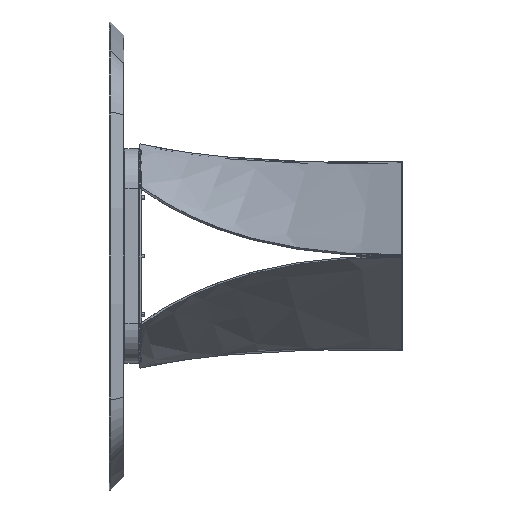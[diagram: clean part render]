
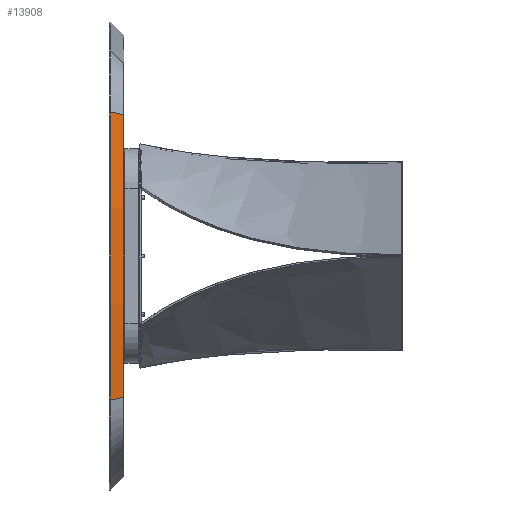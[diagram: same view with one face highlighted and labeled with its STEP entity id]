
A CAD part, left-side view. The second image highlights one B-rep face of the part: STEP entity #13908.
In plain terms, the highlighted conical face has half-angle 45 degrees and reference radius 1895 mm.
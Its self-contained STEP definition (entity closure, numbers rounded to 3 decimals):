
#79 = CARTESIAN_POINT ( 'NONE',  ( -1163.672, 35., 369.275 ) ) ;
#2102 = AXIS2_PLACEMENT_3D ( 'NONE', #20626, #16676, #16799 ) ;
#3010 = DIRECTION ( 'NONE',  ( 0., 1., 0. ) ) ;
#3261 = DIRECTION ( 'NONE',  ( 0., 0., 1. ) ) ;
#3951 = VERTEX_POINT ( 'NONE', #79 ) ;
#4490 = AXIS2_PLACEMENT_3D ( 'NONE', #16801, #3010, #7089 ) ;
#5608 = EDGE_LOOP ( 'NONE', ( #6726, #20021, #16544, #9387 ) ) ;
#6405 = VERTEX_POINT ( 'NONE', #20281 ) ;
#6726 = ORIENTED_EDGE ( 'NONE', *, *, #11914, .F. ) ;
#7089 = DIRECTION ( 'NONE',  ( 0., 0., 1. ) ) ;
#8241 = CARTESIAN_POINT ( 'NONE',  ( -1129.343, 0., 362.455 ) ) ;
#9387 = ORIENTED_EDGE ( 'NONE', *, *, #13855, .F. ) ;
#9803 = CIRCLE ( 'NONE', #4490, 1895. ) ;
#10153 = VECTOR ( 'NONE', #21785, 1000. ) ;
#10803 = DIRECTION ( 'NONE',  ( 0., 1., 0. ) ) ;
#11690 = VERTEX_POINT ( 'NONE', #13367 ) ;
#11914 = EDGE_CURVE ( 'NONE', #6405, #23966, #16155, .T. ) ;
#11942 = EDGE_CURVE ( 'NONE', #11690, #3951, #21910, .T. ) ;
#12454 = CARTESIAN_POINT ( 'NONE',  ( -1129.343, 0., -362.455 ) ) ;
#13077 = AXIS2_PLACEMENT_3D ( 'NONE', #20752, #10803, #3261 ) ;
#13367 = CARTESIAN_POINT ( 'NONE',  ( -1129.63, 0.293, 362.512 ) ) ;
#13855 = EDGE_CURVE ( 'NONE', #23966, #3951, #9803, .T. ) ;
#13908 = ADVANCED_FACE ( 'NONE', ( #20508 ), #21227, .T. ) ;
#14324 = CIRCLE ( 'NONE', #2102, 1860.293 ) ;
#15017 = EDGE_CURVE ( 'NONE', #6405, #11690, #14324, .T. ) ;
#15455 = VECTOR ( 'NONE', #23959, 1000. ) ;
#16155 = LINE ( 'NONE', #12454, #15455 ) ;
#16544 = ORIENTED_EDGE ( 'NONE', *, *, #11942, .T. ) ;
#16676 = DIRECTION ( 'NONE',  ( 0., 1., 0. ) ) ;
#16799 = DIRECTION ( 'NONE',  ( 0., 0., 1. ) ) ;
#16801 = CARTESIAN_POINT ( 'NONE',  ( 695., 35., 0. ) ) ;
#17827 = CARTESIAN_POINT ( 'NONE',  ( -1163.672, 35., -369.275 ) ) ;
#20021 = ORIENTED_EDGE ( 'NONE', *, *, #15017, .T. ) ;
#20281 = CARTESIAN_POINT ( 'NONE',  ( -1129.63, 0.293, -362.512 ) ) ;
#20508 = FACE_OUTER_BOUND ( 'NONE', #5608, .T. ) ;
#20626 = CARTESIAN_POINT ( 'NONE',  ( 695., 0.293, 0. ) ) ;
#20752 = CARTESIAN_POINT ( 'NONE',  ( 695., 35., 0. ) ) ;
#21227 = CONICAL_SURFACE ( 'NONE', #13077, 1895., 0.785 ) ;
#21785 = DIRECTION ( 'NONE',  ( -0.694, 0.707, 0.138 ) ) ;
#21910 = LINE ( 'NONE', #8241, #10153 ) ;
#23959 = DIRECTION ( 'NONE',  ( -0.694, 0.707, -0.138 ) ) ;
#23966 = VERTEX_POINT ( 'NONE', #17827 ) ;
